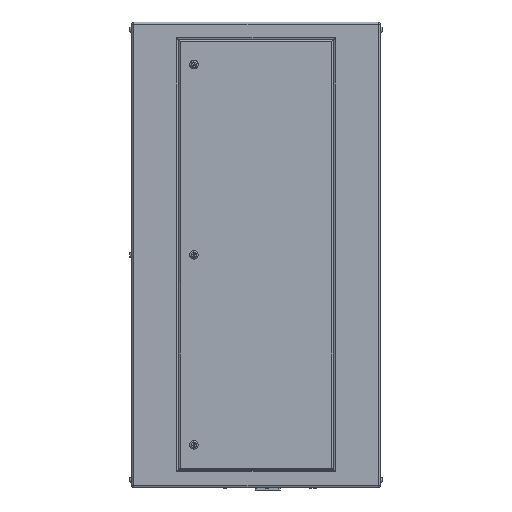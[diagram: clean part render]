
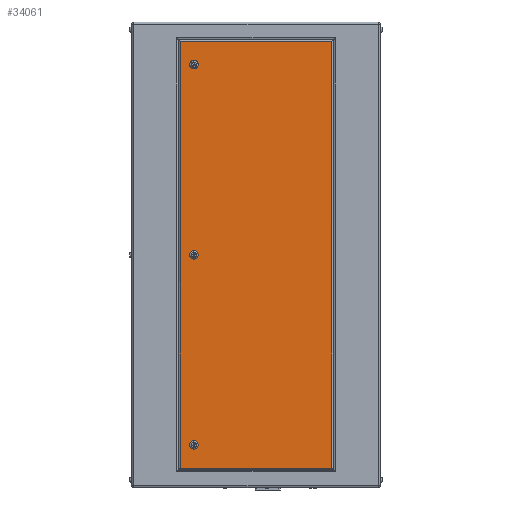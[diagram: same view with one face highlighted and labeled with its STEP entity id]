
A CAD part, left-side view. The second image highlights one B-rep face of the part: STEP entity #34061.
In plain terms, the highlighted planar face has unit normal (-1, 0, 0).
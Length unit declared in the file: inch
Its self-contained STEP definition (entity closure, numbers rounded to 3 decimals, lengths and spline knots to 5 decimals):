
#795 = DIRECTION ( 'NONE',  ( 0., 0., -1. ) ) ;
#983 = FACE_BOUND ( 'NONE', #29192, .T. ) ;
#1635 = EDGE_CURVE ( 'NONE', #6175, #14875, #36453, .T. ) ;
#1701 = VECTOR ( 'NONE', #33490, 39.37008 ) ;
#2271 = EDGE_LOOP ( 'NONE', ( #8043, #26013 ) ) ;
#3832 = CARTESIAN_POINT ( 'NONE',  ( -18., 8., -24.5 ) ) ;
#3994 = DIRECTION ( 'NONE',  ( 0., 1., 0. ) ) ;
#4232 = AXIS2_PLACEMENT_3D ( 'NONE', #3832, #30256, #33597 ) ;
#4503 = CARTESIAN_POINT ( 'NONE',  ( -18., -9.74, 27.49 ) ) ;
#4778 = LINE ( 'NONE', #28307, #30175 ) ;
#6171 = CARTESIAN_POINT ( 'NONE',  ( -18., 8., -24.5 ) ) ;
#6175 = VERTEX_POINT ( 'NONE', #37352 ) ;
#8043 = ORIENTED_EDGE ( 'NONE', *, *, #12138, .T. ) ;
#8504 = DIRECTION ( 'NONE',  ( 1., 0., 0. ) ) ;
#8690 = EDGE_LOOP ( 'NONE', ( #18633, #12820 ) ) ;
#8760 = LINE ( 'NONE', #23214, #15825 ) ;
#9002 = ORIENTED_EDGE ( 'NONE', *, *, #22718, .T. ) ;
#9417 = CARTESIAN_POINT ( 'NONE',  ( -18., -9.74, -30. ) ) ;
#9954 = EDGE_LOOP ( 'NONE', ( #26539, #13780, #29015, #12013 ) ) ;
#10174 = VERTEX_POINT ( 'NONE', #25632 ) ;
#10206 = CARTESIAN_POINT ( 'NONE',  ( -18., 9.74, -27.49 ) ) ;
#10290 = VERTEX_POINT ( 'NONE', #10206 ) ;
#10497 = LINE ( 'NONE', #31016, #23306 ) ;
#11687 = DIRECTION ( 'NONE',  ( 0., 0., -1. ) ) ;
#12013 = ORIENTED_EDGE ( 'NONE', *, *, #35532, .T. ) ;
#12138 = EDGE_CURVE ( 'NONE', #10174, #17909, #20097, .T. ) ;
#12166 = VERTEX_POINT ( 'NONE', #39061 ) ;
#12820 = ORIENTED_EDGE ( 'NONE', *, *, #27565, .T. ) ;
#12907 = DIRECTION ( 'NONE',  ( 0., 0., -1. ) ) ;
#13070 = FACE_BOUND ( 'NONE', #2271, .T. ) ;
#13287 = CARTESIAN_POINT ( 'NONE',  ( -18., 8., 25.05 ) ) ;
#13780 = ORIENTED_EDGE ( 'NONE', *, *, #1635, .T. ) ;
#14118 = CARTESIAN_POINT ( 'NONE',  ( -18., 8., -23.95 ) ) ;
#14225 = EDGE_CURVE ( 'NONE', #10290, #6175, #4778, .T. ) ;
#14447 = CIRCLE ( 'NONE', #30156, 0.55 ) ;
#14763 = ORIENTED_EDGE ( 'NONE', *, *, #33183, .T. ) ;
#14875 = VERTEX_POINT ( 'NONE', #4503 ) ;
#15456 = FACE_BOUND ( 'NONE', #8690, .T. ) ;
#15825 = VECTOR ( 'NONE', #35228, 39.37008 ) ;
#16051 = CARTESIAN_POINT ( 'NONE',  ( -18., 16., -30. ) ) ;
#16516 = DIRECTION ( 'NONE',  ( 0., 0., -1. ) ) ;
#17504 = VERTEX_POINT ( 'NONE', #17874 ) ;
#17874 = CARTESIAN_POINT ( 'NONE',  ( -18., 8., -25.05 ) ) ;
#17895 = CARTESIAN_POINT ( 'NONE',  ( -18., 8., 0.55 ) ) ;
#17909 = VERTEX_POINT ( 'NONE', #13287 ) ;
#18213 = DIRECTION ( 'NONE',  ( 1., 0., 0. ) ) ;
#18531 = DIRECTION ( 'NONE',  ( 1., 0., 0. ) ) ;
#18633 = ORIENTED_EDGE ( 'NONE', *, *, #29642, .T. ) ;
#18990 = EDGE_CURVE ( 'NONE', #14875, #12166, #10497, .T. ) ;
#19390 = CIRCLE ( 'NONE', #4232, 0.55 ) ;
#20009 = CIRCLE ( 'NONE', #28805, 0.55 ) ;
#20097 = CIRCLE ( 'NONE', #30793, 0.55 ) ;
#21320 = CARTESIAN_POINT ( 'NONE',  ( -18., 8., 0. ) ) ;
#21366 = DIRECTION ( 'NONE',  ( 1., 0., 0. ) ) ;
#21677 = VERTEX_POINT ( 'NONE', #25436 ) ;
#22207 = CARTESIAN_POINT ( 'NONE',  ( -18., 8., 24.5 ) ) ;
#22718 = EDGE_CURVE ( 'NONE', #23625, #21677, #27559, .T. ) ;
#23214 = CARTESIAN_POINT ( 'NONE',  ( -18., 9.74, -30. ) ) ;
#23306 = VECTOR ( 'NONE', #3994, 39.37008 ) ;
#23625 = VERTEX_POINT ( 'NONE', #17895 ) ;
#23738 = CARTESIAN_POINT ( 'NONE',  ( -18., 8., 24.5 ) ) ;
#23760 = AXIS2_PLACEMENT_3D ( 'NONE', #16051, #27893, #795 ) ;
#23858 = VERTEX_POINT ( 'NONE', #14118 ) ;
#24738 = PLANE ( 'NONE',  #23760 ) ;
#25436 = CARTESIAN_POINT ( 'NONE',  ( -18., 8., -0.55 ) ) ;
#25632 = CARTESIAN_POINT ( 'NONE',  ( -18., 8., 23.95 ) ) ;
#26013 = ORIENTED_EDGE ( 'NONE', *, *, #35694, .T. ) ;
#26539 = ORIENTED_EDGE ( 'NONE', *, *, #14225, .T. ) ;
#27476 = DIRECTION ( 'NONE',  ( 0., 0., -1. ) ) ;
#27559 = CIRCLE ( 'NONE', #30680, 0.55 ) ;
#27565 = EDGE_CURVE ( 'NONE', #23858, #17504, #14447, .T. ) ;
#27893 = DIRECTION ( 'NONE',  ( 1., 0., 0. ) ) ;
#28307 = CARTESIAN_POINT ( 'NONE',  ( -18., 16., -27.49 ) ) ;
#28805 = AXIS2_PLACEMENT_3D ( 'NONE', #21320, #18531, #30168 ) ;
#29015 = ORIENTED_EDGE ( 'NONE', *, *, #18990, .T. ) ;
#29192 = EDGE_LOOP ( 'NONE', ( #14763, #9002 ) ) ;
#29642 = EDGE_CURVE ( 'NONE', #17504, #23858, #19390, .T. ) ;
#30156 = AXIS2_PLACEMENT_3D ( 'NONE', #6171, #18213, #27476 ) ;
#30168 = DIRECTION ( 'NONE',  ( 0., 0., -1. ) ) ;
#30175 = VECTOR ( 'NONE', #32003, 39.37008 ) ;
#30256 = DIRECTION ( 'NONE',  ( 1., 0., 0. ) ) ;
#30680 = AXIS2_PLACEMENT_3D ( 'NONE', #37936, #8504, #16516 ) ;
#30793 = AXIS2_PLACEMENT_3D ( 'NONE', #23738, #21366, #11687 ) ;
#31016 = CARTESIAN_POINT ( 'NONE',  ( -18., 16., 27.49 ) ) ;
#31227 = DIRECTION ( 'NONE',  ( 1., 0., 0. ) ) ;
#32003 = DIRECTION ( 'NONE',  ( 0., -1., 0. ) ) ;
#33183 = EDGE_CURVE ( 'NONE', #21677, #23625, #20009, .T. ) ;
#33490 = DIRECTION ( 'NONE',  ( 0., 0., 1. ) ) ;
#33597 = DIRECTION ( 'NONE',  ( 0., 0., -1. ) ) ;
#34061 = ADVANCED_FACE ( 'NONE', ( #15456, #983, #13070, #37299 ), #24738, .F. ) ;
#34676 = CIRCLE ( 'NONE', #35326, 0.55 ) ;
#35228 = DIRECTION ( 'NONE',  ( 0., 0., -1. ) ) ;
#35326 = AXIS2_PLACEMENT_3D ( 'NONE', #22207, #31227, #12907 ) ;
#35532 = EDGE_CURVE ( 'NONE', #12166, #10290, #8760, .T. ) ;
#35694 = EDGE_CURVE ( 'NONE', #17909, #10174, #34676, .T. ) ;
#36453 = LINE ( 'NONE', #9417, #1701 ) ;
#37299 = FACE_OUTER_BOUND ( 'NONE', #9954, .T. ) ;
#37352 = CARTESIAN_POINT ( 'NONE',  ( -18., -9.74, -27.49 ) ) ;
#37936 = CARTESIAN_POINT ( 'NONE',  ( -18., 8., 0. ) ) ;
#39061 = CARTESIAN_POINT ( 'NONE',  ( -18., 9.74, 27.49 ) ) ;
